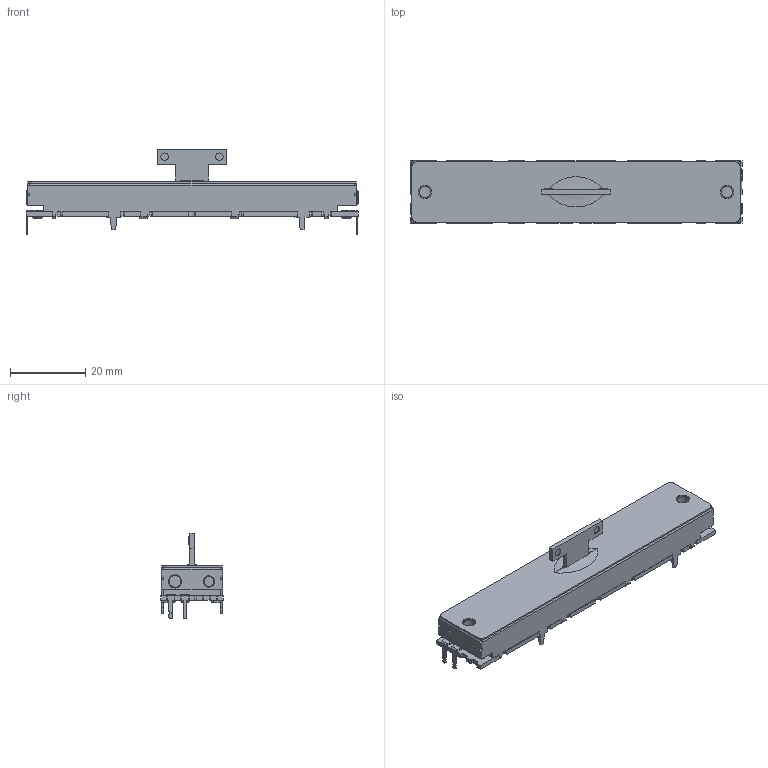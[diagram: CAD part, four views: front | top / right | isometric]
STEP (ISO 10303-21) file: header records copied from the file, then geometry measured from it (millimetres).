
FILE_DESCRIPTION(('FreeCAD Model'),'2;1');
FILE_NAME('Open CASCADE Shape Model','2023-03-16T15:25:22',(''),(''), 'Open CASCADE STEP processor 7.6','FreeCAD','Unknown');
FILE_SCHEMA(('AUTOMOTIVE_DESIGN { 1 0 10303 214 1 1 1 1 }'));
Length unit declared in the file: millimetre
Products named in the file (1): Fusion002010
Bounding box: 88 x 16.5 x 22.7 mm (x, y, z)
Volume: 12650.2 mm3; surface area: 6396.5 mm2
Topology: 1 solids, 4 shells, 521 faces, 1413 edges, 909 vertices
Faces by surface type: plane 379, cylinder 122, extrusion 8, cone 7, torus 3, revolution 2
Full cylindrical faces by diameter (mm): 0.5 x9, 1.5 x3, 1.7 x8, 2 x4, 3 x4, 3.5 x4
Entity records: 39174 total; most frequent: CARTESIAN_POINT 9660, DIRECTION 4453, ORIENTED_EDGE 2834, PCURVE 2826, DEFINITIONAL_REPRESENTATION 2826, VECTOR 2729, LINE 2721, EDGE_CURVE 1413
